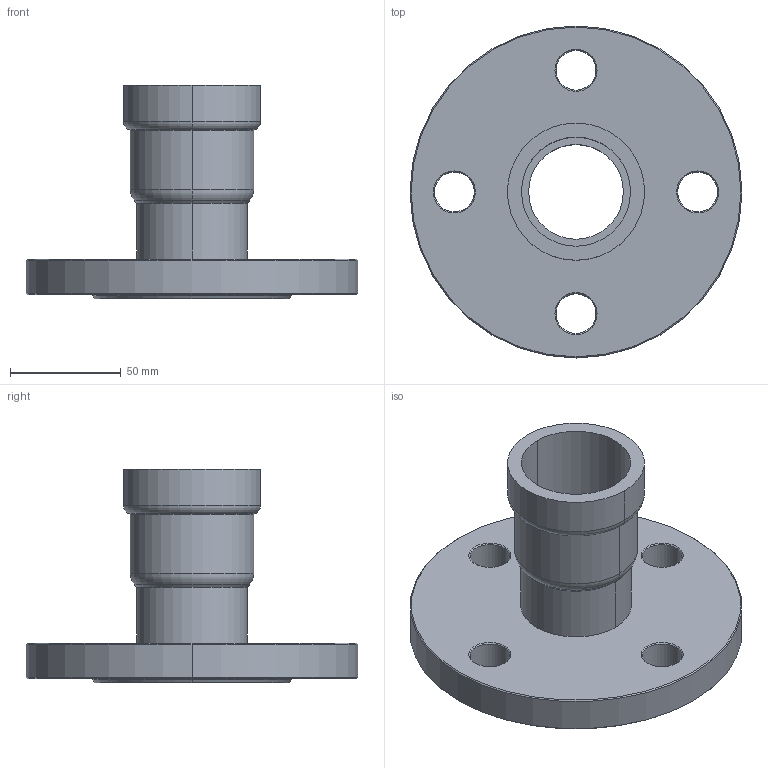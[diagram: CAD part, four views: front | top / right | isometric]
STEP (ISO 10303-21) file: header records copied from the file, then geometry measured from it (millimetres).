
FILE_DESCRIPTION(('Creo Elements/Direct Modeling STEP Export'),'2;1');
FILE_NAME('C9426_1-1-2.stp','2020-07-17T11:38:27',(''),(''),'PTC Creo Elements/Direct Modeling STEP processor for AP214 (Solid Model)','PTC Creo Elements/Direct Modeling 19.0C 15-Aug-2015 (C) Parametric Technology GmbH','');
FILE_SCHEMA(('AUTOMOTIVE_DESIGN { 1 0 10303 214 1 1 1 1 }'));
Length unit declared in the file: millimetre
Products named in the file (2): C9426_1-1-2
Assembly tree (1 placements, depth 2):
  C9426_1-1-2
    C9426_1-1-2
Bounding box: 150 x 150 x 96.68 mm (x, y, z)
Volume: 305594.4 mm3; surface area: 70910.3 mm2
Topology: 1 solids, 1 shells, 96 faces, 211 edges, 129 vertices
Faces by surface type: torus 32, cone 26, cylinder 20, plane 18
Entity records: 2623 total; most frequent: CARTESIAN_POINT 604, ORIENTED_EDGE 422, DIRECTION 412, EDGE_CURVE 211, AXIS2_PLACEMENT_3D 183, VERTEX_POINT 129, EDGE_LOOP 118, FACE_OUTER_BOUND 96
